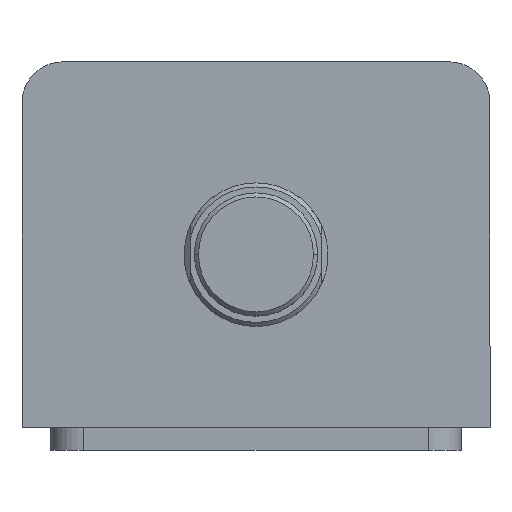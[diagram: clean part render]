
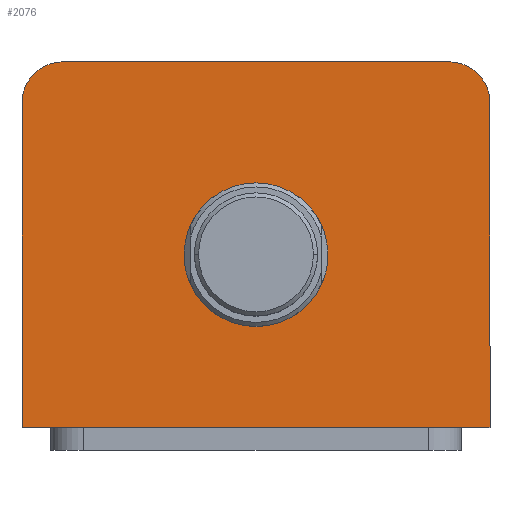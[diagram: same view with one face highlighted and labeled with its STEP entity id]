
A CAD part, top view. The second image highlights one B-rep face of the part: STEP entity #2076.
In plain terms, the highlighted planar face has unit normal (0, 0, 1).
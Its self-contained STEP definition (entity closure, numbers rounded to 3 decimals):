
#53 = VERTEX_POINT ( 'NONE', #2347 ) ;
#56 = VERTEX_POINT ( 'NONE', #2350 ) ;
#57 = VERTEX_POINT ( 'NONE', #2351 ) ;
#336 = ORIENTED_EDGE ( 'NONE', *, *, #3752, .T. ) ;
#338 = ORIENTED_EDGE ( 'NONE', *, *, #3692, .F. ) ;
#356 = ORIENTED_EDGE ( 'NONE', *, *, #3690, .F. ) ;
#358 = ORIENTED_EDGE ( 'NONE', *, *, #3737, .T. ) ;
#363 = ORIENTED_EDGE ( 'NONE', *, *, #3699, .T. ) ;
#364 = ORIENTED_EDGE ( 'NONE', *, *, #3767, .T. ) ;
#365 = ORIENTED_EDGE ( 'NONE', *, *, #3716, .T. ) ;
#378 = ORIENTED_EDGE ( 'NONE', *, *, #3774, .T. ) ;
#517 = FACE_BOUND ( 'NONE', #2750, .T. ) ;
#525 = VERTEX_POINT ( 'NONE', #2894 ) ;
#528 = FACE_OUTER_BOUND ( 'NONE', #2761, .T. ) ;
#531 = VERTEX_POINT ( 'NONE', #2897 ) ;
#934 = CIRCLE ( 'NONE', #3246, 17.5 ) ;
#937 = CIRCLE ( 'NONE', #3245, 17.5 ) ;
#943 = LINE ( 'NONE', #2093, #950 ) ;
#950 = VECTOR ( 'NONE', #2103, 1000. ) ;
#979 = LINE ( 'NONE', #2133, #982 ) ;
#982 = VECTOR ( 'NONE', #2134, 1000. ) ;
#1006 = LINE ( 'NONE', #2167, #1009 ) ;
#1009 = VECTOR ( 'NONE', #2168, 1000. ) ;
#1022 = CIRCLE ( 'NONE', #3308, 10. ) ;
#1035 = CIRCLE ( 'NONE', #3757, 10. ) ;
#1041 = LINE ( 'NONE', #1777, #1043 ) ;
#1043 = VECTOR ( 'NONE', #1778, 1000. ) ;
#1699 = PLANE ( 'NONE',  #3461 ) ;
#1700 = CARTESIAN_POINT ( 'NONE',  ( 0., 0., 107. ) ) ;
#1705 = DIRECTION ( 'NONE',  ( 0., 0., 1. ) ) ;
#1706 = DIRECTION ( 'NONE',  ( 1., 0., 0. ) ) ;
#1741 = CARTESIAN_POINT ( 'NONE',  ( 47., 34.5, 107. ) ) ;
#1742 = DIRECTION ( 'NONE',  ( 0., 0., 1. ) ) ;
#1743 = DIRECTION ( 'NONE',  ( 1., 0., 0. ) ) ;
#1768 = CARTESIAN_POINT ( 'NONE',  ( -47., 34.5, 107. ) ) ;
#1769 = DIRECTION ( 'NONE',  ( 0., 0., 1. ) ) ;
#1770 = DIRECTION ( 'NONE',  ( 1., 0., 0. ) ) ;
#1777 = CARTESIAN_POINT ( 'NONE',  ( -57., 44.5, 107. ) ) ;
#1778 = DIRECTION ( 'NONE',  ( 0., -1., 0. ) ) ;
#2076 = ADVANCED_FACE ( 'NONE', ( #517, #528 ), #1699, .T. ) ;
#2083 = CARTESIAN_POINT ( 'NONE',  ( 0., -2.5, 107. ) ) ;
#2084 = DIRECTION ( 'NONE',  ( 0., 0., 1. ) ) ;
#2085 = DIRECTION ( 'NONE',  ( 1., 0., 0. ) ) ;
#2093 = CARTESIAN_POINT ( 'NONE',  ( -57., -44.5, 107. ) ) ;
#2103 = DIRECTION ( 'NONE',  ( 1., 0., 0. ) ) ;
#2133 = CARTESIAN_POINT ( 'NONE',  ( 57., 44.5, 107. ) ) ;
#2134 = DIRECTION ( 'NONE',  ( 0., 1., 0. ) ) ;
#2167 = CARTESIAN_POINT ( 'NONE',  ( -57., 44.5, 107. ) ) ;
#2168 = DIRECTION ( 'NONE',  ( -1., 0., 0. ) ) ;
#2347 = CARTESIAN_POINT ( 'NONE',  ( 57., -44.5, 107. ) ) ;
#2350 = CARTESIAN_POINT ( 'NONE',  ( -57., -44.5, 107. ) ) ;
#2351 = CARTESIAN_POINT ( 'NONE',  ( 47., 44.5, 107. ) ) ;
#2439 = VERTEX_POINT ( 'NONE', #3026 ) ;
#2581 = CARTESIAN_POINT ( 'NONE',  ( 0., -2.5, 107. ) ) ;
#2582 = DIRECTION ( 'NONE',  ( 0., 0., 1. ) ) ;
#2583 = DIRECTION ( 'NONE',  ( 1., 0., 0. ) ) ;
#2750 = EDGE_LOOP ( 'NONE', ( #338, #356 ) ) ;
#2761 = EDGE_LOOP ( 'NONE', ( #358, #364, #378, #363, #365, #336 ) ) ;
#2838 = CARTESIAN_POINT ( 'NONE',  ( -17.5, -2.5, 107. ) ) ;
#2842 = CARTESIAN_POINT ( 'NONE',  ( 17.5, -2.5, 107. ) ) ;
#2894 = CARTESIAN_POINT ( 'NONE',  ( -57., 34.5, 107. ) ) ;
#2897 = CARTESIAN_POINT ( 'NONE',  ( -47., 44.5, 107. ) ) ;
#3026 = CARTESIAN_POINT ( 'NONE',  ( 57., 34.5, 107. ) ) ;
#3077 = VERTEX_POINT ( 'NONE', #2838 ) ;
#3078 = VERTEX_POINT ( 'NONE', #2842 ) ;
#3245 = AXIS2_PLACEMENT_3D ( 'NONE', #2083, #2084, #2085 ) ;
#3246 = AXIS2_PLACEMENT_3D ( 'NONE', #2581, #2582, #2583 ) ;
#3308 = AXIS2_PLACEMENT_3D ( 'NONE', #1741, #1742, #1743 ) ;
#3461 = AXIS2_PLACEMENT_3D ( 'NONE', #1700, #1705, #1706 ) ;
#3690 = EDGE_CURVE ( 'NONE', #3077, #3078, #934, .T. ) ;
#3692 = EDGE_CURVE ( 'NONE', #3078, #3077, #937, .T. ) ;
#3699 = EDGE_CURVE ( 'NONE', #56, #53, #943, .T. ) ;
#3716 = EDGE_CURVE ( 'NONE', #53, #2439, #979, .T. ) ;
#3737 = EDGE_CURVE ( 'NONE', #57, #531, #1006, .T. ) ;
#3752 = EDGE_CURVE ( 'NONE', #2439, #57, #1022, .T. ) ;
#3757 = AXIS2_PLACEMENT_3D ( 'NONE', #1768, #1769, #1770 ) ;
#3767 = EDGE_CURVE ( 'NONE', #531, #525, #1035, .T. ) ;
#3774 = EDGE_CURVE ( 'NONE', #525, #56, #1041, .T. ) ;
